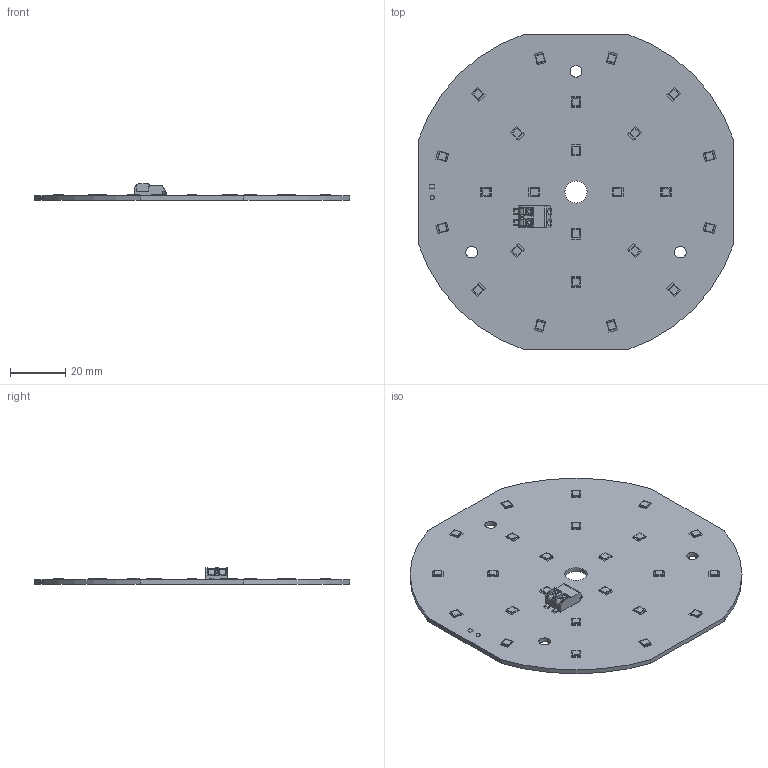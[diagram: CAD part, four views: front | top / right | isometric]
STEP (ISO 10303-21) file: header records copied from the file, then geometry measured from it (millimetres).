
FILE_DESCRIPTION (( 'STEP AP214' ), '1' );
FILE_NAME ('CLE120.STEP', '2014-06-18T07:30:26', ( 'Zumtobel' ), ( 'Zumtobel' ), 'SwSTEP 2.0', 'SolidWorks 2014', '' );
FILE_SCHEMA (( 'AUTOMOTIVE_DESIGN' ));
Length unit declared in the file: millimetre
Products named in the file (88): X1.2_Top; LED7(A); LED9(B).1_Top; LED8(B); LED23(B).2_Top; X1.1_Top; LED23(B); LED10(A).2_Top; TP1; LED23(B).1_Top; LED20(B); LED10(A).1_Top; Testpoint150; LED20(B).2_Top; CLE120; LED-SMD-Nichia_030x030; LED15(A).2_Top; TP150; LED20(B).1_Top; Nichia_NFSL757DT; LED15(A).1_Top; LED24(A); LED24(A).2_Top; FID1; LED16(B).2_Top; Board; LED24(A).1_Top; LED21(B).2_Top; LED16(B).1_Top; S022(E)_Platine; LED18(B).2_Top; LED21(B).1_Top; LED4(B).2_Top; LED15(A); LED18(B).1_Top; LED22(A).2_Top; LED4(B).1_Top; LED2(B); LED19(A).2_Top; LED22(A).1_Top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
Assembly tree (110 placements, depth 4):
  CLE120
    FID1
      X1.1_Top
      X1.2_Top
      X1.3_Top
      X1.4_Top
      TP1.1_Top
      TP2.1_Top
      LED6(B).1_Top
      LED6(B).2_Top
      LED5(A).1_Top
      LED5(A).2_Top
      LED3(A).1_Top
      LED3(A).2_Top
      LED4(B).1_Top
      LED4(B).2_Top
      LED16(B).1_Top
      LED16(B).2_Top
      LED15(A).1_Top
      LED15(A).2_Top
      LED10(A).1_Top
      LED10(A).2_Top
      LED9(B).1_Top
      LED9(B).2_Top
      LED1(A).1_Top
      LED1(A).2_Top
      LED2(B).1_Top
      LED2(B).2_Top
      LED7(A).1_Top
      LED7(A).2_Top
      LED8(B).1_Top
      LED8(B).2_Top
      LED19(A).1_Top
      LED19(A).2_Top
      LED18(B).1_Top
      LED18(B).2_Top
      LED24(A).1_Top
      LED24(A).2_Top
      LED20(B).1_Top
      LED20(B).2_Top
      LED23(B).1_Top
      LED23(B).2_Top
      LED12(A).1_Top
      LED12(A).2_Top
      LED17(A).1_Top
      LED17(A).2_Top
      LED11(B).1_Top
      LED11(B).2_Top
      LED13(A).1_Top
      LED13(A).2_Top
      LED14(B).1_Top
      LED14(B).2_Top
      LED22(A).1_Top
      LED22(A).2_Top
      LED21(B).1_Top
      LED21(B).2_Top
    LED20(B)
      LED-SMD-Nichia_030x030
        Nichia_NFSL757DT
    LED23(B)
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Bounding box: 114 x 114 x 6.07 mm (x, y, z)
Volume: 19147.8 mm3; surface area: 24630.7 mm2
Topology: 105 solids, 105 shells, 1303 faces, 3181 edges, 2112 vertices
Faces by surface type: plane 1081, cylinder 220, bspline 2
Entity records: 31264 total; most frequent: CARTESIAN_POINT 4128, DIRECTION 3631, ORIENTED_EDGE 3602, EDGE_CURVE 1801, VECTOR 1617, LINE 1617, VERTEX_POINT 1192, AXIS2_PLACEMENT_3D 1007
